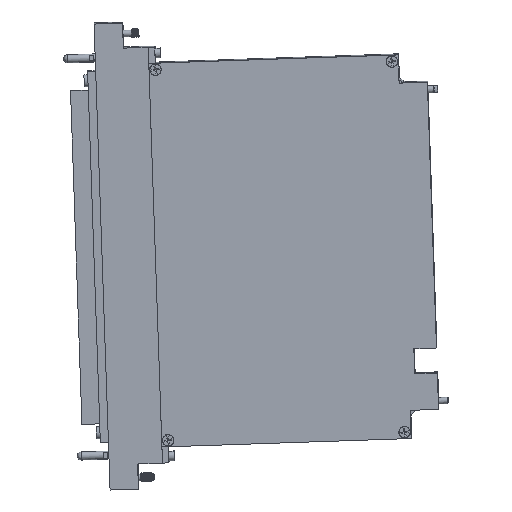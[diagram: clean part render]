
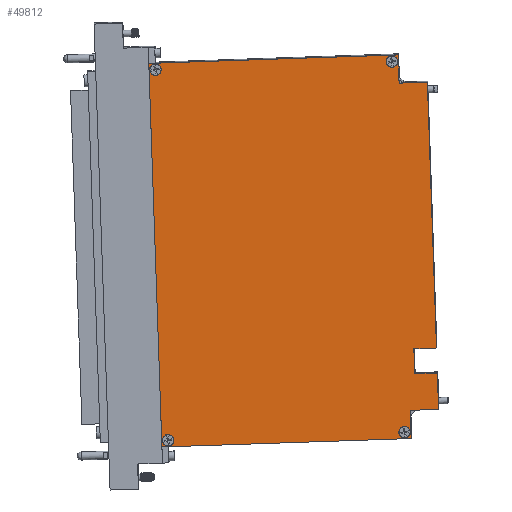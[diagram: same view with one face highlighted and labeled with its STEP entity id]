
A CAD part, front view. The second image highlights one B-rep face of the part: STEP entity #49812.
In plain terms, the highlighted planar face has unit normal (-0.008, -1, -0.021).
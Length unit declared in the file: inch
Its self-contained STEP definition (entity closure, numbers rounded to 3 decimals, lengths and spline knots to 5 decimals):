
#49200=CARTESIAN_POINT('',(4.88399,-0.40421,-1.42997));
#49201=VERTEX_POINT('',#49200);
#49208=CARTESIAN_POINT('',(4.89725,-0.39603,-1.81666));
#49209=VERTEX_POINT('',#49208);
#49210=CARTESIAN_POINT('',(4.89725,-0.39603,-1.81666));
#49211=DIRECTION('',(-0.034,-0.021,0.999));
#49212=VECTOR('',#49211,0.387);
#49213=LINE('',#49210,#49212);
#49214=EDGE_CURVE('',#49209,#49201,#49213,.T.);
#49239=CARTESIAN_POINT('',(5.24703,-0.39921,-1.80474));
#49240=VERTEX_POINT('',#49239);
#49241=CARTESIAN_POINT('',(5.24703,-0.39921,-1.80474));
#49242=DIRECTION('',(-0.999,0.009,-0.034));
#49243=VECTOR('',#49242,0.35);
#49244=LINE('',#49241,#49243);
#49245=EDGE_CURVE('',#49240,#49209,#49244,.T.);
#49269=CARTESIAN_POINT('',(5.23377,-0.40739,-1.41805));
#49270=VERTEX_POINT('',#49269);
#49277=CARTESIAN_POINT('',(4.88399,-0.40421,-1.42997));
#49278=DIRECTION('',(0.999,-0.009,0.034));
#49279=VECTOR('',#49278,0.35);
#49280=LINE('',#49277,#49279);
#49281=EDGE_CURVE('',#49201,#49270,#49280,.T.);
#49418=CARTESIAN_POINT('',(5.26633,-0.3873,-2.36774));
#49419=VERTEX_POINT('',#49418);
#49420=CARTESIAN_POINT('',(5.26633,-0.3873,-2.36774));
#49421=DIRECTION('',(-0.034,-0.021,0.999));
#49422=VECTOR('',#49421,0.56346);
#49423=LINE('',#49420,#49422);
#49424=EDGE_CURVE('',#49419,#49240,#49423,.T.);
#49441=CARTESIAN_POINT('',(4.65075,-0.37448,-2.72538));
#49442=VERTEX_POINT('',#49441);
#49443=CARTESIAN_POINT('',(4.74069,-0.3753,-2.72232));
#49444=DIRECTION('',(0.008,1.,0.021));
#49445=DIRECTION('',(-0.999,0.009,-0.034));
#49446=AXIS2_PLACEMENT_3D('',#49443,#49444,#49445);
#49447=CIRCLE('',#49446,0.09);
#49448=EDGE_CURVE('',#49442,#49442,#49447,.T.);
#49481=CARTESIAN_POINT('',(0.99252,-0.3412,-2.85008));
#49482=VERTEX_POINT('',#49481);
#49483=CARTESIAN_POINT('',(1.08247,-0.34202,-2.84701));
#49484=DIRECTION('',(0.008,1.,0.021));
#49485=DIRECTION('',(-0.999,0.009,-0.034));
#49486=AXIS2_PLACEMENT_3D('',#49483,#49484,#49485);
#49487=CIRCLE('',#49486,0.09);
#49488=EDGE_CURVE('',#49482,#49482,#49487,.T.);
#49521=CARTESIAN_POINT('',(0.79592,-0.4625,2.88527));
#49522=VERTEX_POINT('',#49521);
#49523=CARTESIAN_POINT('',(0.88586,-0.46332,2.88834));
#49524=DIRECTION('',(0.008,1.,0.021));
#49525=DIRECTION('',(-0.999,0.009,-0.034));
#49526=AXIS2_PLACEMENT_3D('',#49523,#49524,#49525);
#49527=CIRCLE('',#49526,0.09);
#49528=EDGE_CURVE('',#49522,#49522,#49527,.T.);
#49561=CARTESIAN_POINT('',(4.45414,-0.49579,3.00997));
#49562=VERTEX_POINT('',#49561);
#49563=CARTESIAN_POINT('',(4.54409,-0.49661,3.01303));
#49564=DIRECTION('',(0.008,1.,0.021));
#49565=DIRECTION('',(-0.999,0.009,-0.034));
#49566=AXIS2_PLACEMENT_3D('',#49563,#49564,#49565);
#49567=CIRCLE('',#49566,0.09);
#49568=EDGE_CURVE('',#49562,#49562,#49567,.T.);
#49603=CARTESIAN_POINT('',(5.09278,-0.49438,2.69508));
#49604=VERTEX_POINT('',#49603);
#49611=CARTESIAN_POINT('',(5.23377,-0.40739,-1.41805));
#49612=DIRECTION('',(-0.034,-0.021,0.999));
#49613=VECTOR('',#49612,4.11646);
#49614=LINE('',#49611,#49613);
#49615=EDGE_CURVE('',#49270,#49604,#49614,.T.);
#49626=CARTESIAN_POINT('',(4.65555,-0.4904,2.68018));
#49627=VERTEX_POINT('',#49626);
#49634=CARTESIAN_POINT('',(5.09278,-0.49438,2.69508));
#49635=DIRECTION('',(-0.999,0.009,-0.034));
#49636=VECTOR('',#49635,0.4375);
#49637=LINE('',#49634,#49636);
#49638=EDGE_CURVE('',#49604,#49627,#49637,.T.);
#49650=CARTESIAN_POINT('',(4.6406,-0.49963,3.11636));
#49651=VERTEX_POINT('',#49650);
#49658=CARTESIAN_POINT('',(4.65555,-0.4904,2.68018));
#49659=DIRECTION('',(-0.034,-0.021,0.999));
#49660=VECTOR('',#49659,0.43654);
#49661=LINE('',#49658,#49660);
#49662=EDGE_CURVE('',#49627,#49651,#49661,.T.);
#49674=CARTESIAN_POINT('',(0.7825,-0.46453,2.98485));
#49675=VERTEX_POINT('',#49674);
#49682=CARTESIAN_POINT('',(4.6406,-0.49963,3.11636));
#49683=DIRECTION('',(-0.999,0.009,-0.034));
#49684=VECTOR('',#49683,3.8605);
#49685=LINE('',#49682,#49684);
#49686=EDGE_CURVE('',#49651,#49675,#49685,.T.);
#49698=CARTESIAN_POINT('',(0.98595,-0.339,-2.95034));
#49699=VERTEX_POINT('',#49698);
#49706=CARTESIAN_POINT('',(0.7825,-0.46453,2.98485));
#49707=DIRECTION('',(0.034,0.021,-0.999));
#49708=VECTOR('',#49707,5.94);
#49709=LINE('',#49706,#49708);
#49710=EDGE_CURVE('',#49675,#49699,#49709,.T.);
#49722=CARTESIAN_POINT('',(4.84405,-0.3741,-2.81883));
#49723=VERTEX_POINT('',#49722);
#49730=CARTESIAN_POINT('',(0.98595,-0.339,-2.95034));
#49731=DIRECTION('',(0.999,-0.009,0.034));
#49732=VECTOR('',#49731,3.8605);
#49733=LINE('',#49730,#49732);
#49734=EDGE_CURVE('',#49699,#49723,#49733,.T.);
#49746=CARTESIAN_POINT('',(4.8291,-0.38332,-2.38265));
#49747=VERTEX_POINT('',#49746);
#49754=CARTESIAN_POINT('',(4.84405,-0.3741,-2.81883));
#49755=DIRECTION('',(-0.034,-0.021,0.999));
#49756=VECTOR('',#49755,0.43654);
#49757=LINE('',#49754,#49756);
#49758=EDGE_CURVE('',#49723,#49747,#49757,.T.);
#49771=CARTESIAN_POINT('',(4.8291,-0.38332,-2.38265));
#49772=DIRECTION('',(0.999,-0.009,0.034));
#49773=VECTOR('',#49772,0.4375);
#49774=LINE('',#49771,#49773);
#49775=EDGE_CURVE('',#49747,#49419,#49774,.T.);
#49781=CARTESIAN_POINT('',(3.01325,-0.42113,0.08983));
#49782=DIRECTION('',(0.008,1.,0.021));
#49783=DIRECTION('',(-0.999,0.009,-0.034));
#49784=AXIS2_PLACEMENT_3D('',#49781,#49782,#49783);
#49785=PLANE('',#49784);
#49786=ORIENTED_EDGE('',*,*,#49281,.T.);
#49787=ORIENTED_EDGE('',*,*,#49615,.T.);
#49788=ORIENTED_EDGE('',*,*,#49638,.T.);
#49789=ORIENTED_EDGE('',*,*,#49662,.T.);
#49790=ORIENTED_EDGE('',*,*,#49686,.T.);
#49791=ORIENTED_EDGE('',*,*,#49710,.T.);
#49792=ORIENTED_EDGE('',*,*,#49734,.T.);
#49793=ORIENTED_EDGE('',*,*,#49758,.T.);
#49794=ORIENTED_EDGE('',*,*,#49775,.T.);
#49795=ORIENTED_EDGE('',*,*,#49424,.T.);
#49796=ORIENTED_EDGE('',*,*,#49245,.T.);
#49797=ORIENTED_EDGE('',*,*,#49214,.T.);
#49798=EDGE_LOOP('',(#49786,#49787,#49788,#49789,#49790,#49791,#49792,#49793,#49794,#49795,#49796,#49797));
#49799=FACE_OUTER_BOUND('',#49798,.T.);
#49800=ORIENTED_EDGE('',*,*,#49448,.T.);
#49801=EDGE_LOOP('',(#49800));
#49802=FACE_BOUND('',#49801,.T.);
#49803=ORIENTED_EDGE('',*,*,#49488,.T.);
#49804=EDGE_LOOP('',(#49803));
#49805=FACE_BOUND('',#49804,.T.);
#49806=ORIENTED_EDGE('',*,*,#49528,.T.);
#49807=EDGE_LOOP('',(#49806));
#49808=FACE_BOUND('',#49807,.T.);
#49809=ORIENTED_EDGE('',*,*,#49568,.T.);
#49810=EDGE_LOOP('',(#49809));
#49811=FACE_BOUND('',#49810,.T.);
#49812=ADVANCED_FACE('',(#49799,#49802,#49805,#49808,#49811),#49785,.F.);
